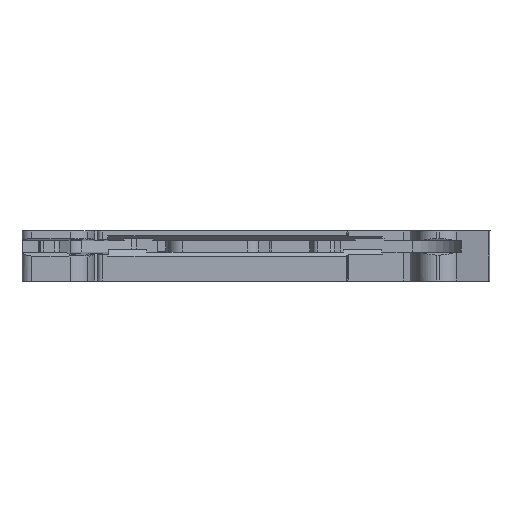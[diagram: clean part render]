
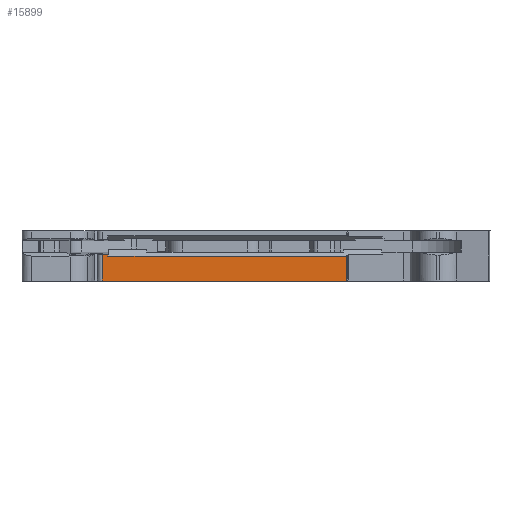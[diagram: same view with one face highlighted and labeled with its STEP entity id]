
A CAD part, front view. The second image highlights one B-rep face of the part: STEP entity #15899.
In plain terms, the highlighted planar face has unit normal (0, -1, 0).
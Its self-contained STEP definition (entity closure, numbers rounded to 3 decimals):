
#1846=DIRECTION('',(-1.,0.,0.));
#1847=VECTOR('',#1846,0.601);
#1848=CARTESIAN_POINT('',(1904.793,1073.377,0.171));
#1849=LINE('',#1848,#1847);
#4143=DIRECTION('',(0.,0.,-1.));
#4144=VECTOR('',#4143,2.771);
#4145=CARTESIAN_POINT('',(1904.191,1073.377,0.171));
#4146=LINE('',#4145,#4144);
#4147=DIRECTION('',(0.,0.,-1.));
#4148=VECTOR('',#4147,0.171);
#4149=CARTESIAN_POINT('',(1904.793,1073.377,0.171));
#4150=LINE('',#4149,#4148);
#4151=DIRECTION('',(1.,0.,0.));
#4152=VECTOR('',#4151,24.769);
#4153=CARTESIAN_POINT('',(1904.793,1073.377,
0.));
#4154=LINE('',#4153,#4152);
#4155=DIRECTION('',(-1.,0.,0.));
#4156=VECTOR('',#4155,25.37);
#4157=CARTESIAN_POINT('',(1929.562,1073.377,-2.6));
#4158=LINE('',#4157,#4156);
#4511=DIRECTION('',(0.,0.,1.));
#4512=VECTOR('',#4511,2.6);
#4513=CARTESIAN_POINT('',(1929.562,1073.377,-2.6));
#4514=LINE('',#4513,#4512);
#9811=CARTESIAN_POINT('',(1904.793,1073.377,0.171));
#9812=VERTEX_POINT('',#9811);
#9813=CARTESIAN_POINT('',(1904.191,1073.377,0.171));
#9814=VERTEX_POINT('',#9813);
#9980=CARTESIAN_POINT('',(1904.191,1073.377,-2.6));
#9981=VERTEX_POINT('',#9980);
#9982=CARTESIAN_POINT('',(1929.562,1073.377,-2.6));
#9983=VERTEX_POINT('',#9982);
#11246=CARTESIAN_POINT('',(1904.793,1073.377,
0.));
#11247=VERTEX_POINT('',#11246);
#11248=CARTESIAN_POINT('',(1929.562,1073.377,
0.));
#11249=VERTEX_POINT('',#11248);
#15883=CARTESIAN_POINT('',(1904.191,1073.377,2.6));
#15884=DIRECTION('',(0.,-1.,0.));
#15885=DIRECTION('',(1.,0.,0.));
#15886=AXIS2_PLACEMENT_3D('',#15883,#15884,#15885);
#15887=PLANE('',#15886);
#15888=ORIENTED_EDGE('',*,*,#15876,.F.);
#15889=ORIENTED_EDGE('',*,*,#13188,.F.);
#15891=ORIENTED_EDGE('',*,*,#15890,.T.);
#15893=ORIENTED_EDGE('',*,*,#15892,.T.);
#15895=ORIENTED_EDGE('',*,*,#15894,.F.);
#15896=ORIENTED_EDGE('',*,*,#13439,.T.);
#15897=EDGE_LOOP('',(#15888,#15889,#15891,#15893,#15895,#15896));
#15898=FACE_OUTER_BOUND('',#15897,.F.);
#15899=ADVANCED_FACE('',(#15898),#15887,.T.);
#13188=EDGE_CURVE('',#9812,#9814,#1849,.T.);
#13439=EDGE_CURVE('',#9983,#9981,#4158,.T.);
#15876=EDGE_CURVE('',#9814,#9981,#4146,.T.);
#15890=EDGE_CURVE('',#9812,#11247,#4150,.T.);
#15892=EDGE_CURVE('',#11247,#11249,#4154,.T.);
#15894=EDGE_CURVE('',#9983,#11249,#4514,.T.);
